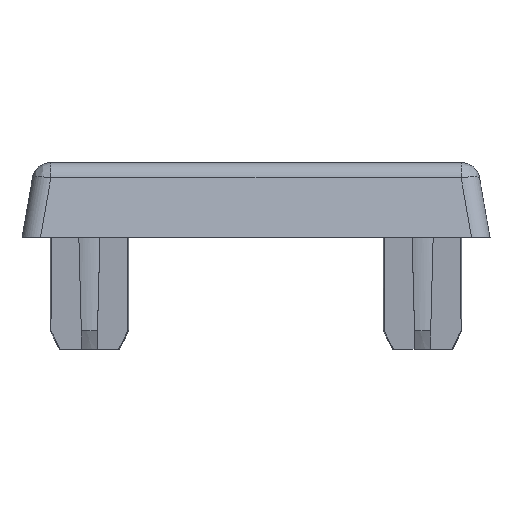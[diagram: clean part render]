
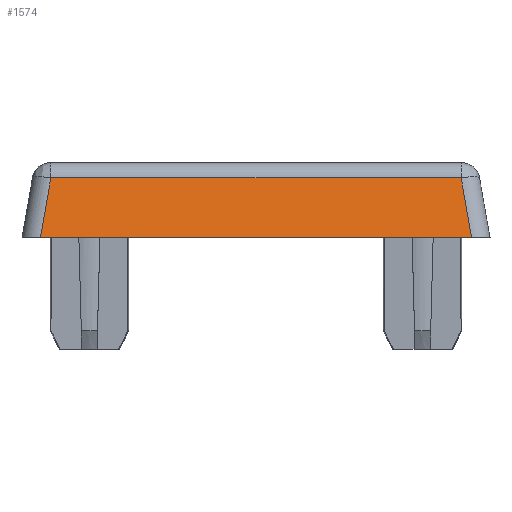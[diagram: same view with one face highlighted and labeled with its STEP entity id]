
A CAD part, front view. The second image highlights one B-rep face of the part: STEP entity #1574.
In plain terms, the highlighted planar face has unit normal (0, -0.985, 0.174).
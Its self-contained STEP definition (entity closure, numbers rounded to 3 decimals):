
#270 = CARTESIAN_POINT ( 'NONE',  ( -18.129, 7.411, 0. ) ) ;
#691 = VERTEX_POINT ( 'NONE', #4328 ) ;
#749 = CARTESIAN_POINT ( 'NONE',  ( -40.602, 7.969, 3.162 ) ) ;
#790 = ORIENTED_EDGE ( 'NONE', *, *, #1826, .F. ) ;
#885 = DIRECTION ( 'NONE',  ( 0.171, -0.171, -0.97 ) ) ;
#959 = DIRECTION ( 'NONE',  ( -1., 0., 0. ) ) ;
#1047 = DIRECTION ( 'NONE',  ( 0.171, 0.171, 0.97 ) ) ;
#1148 = CARTESIAN_POINT ( 'NONE',  ( -16.132, 7.411, 0. ) ) ;
#1388 = ORIENTED_EDGE ( 'NONE', *, *, #4043, .F. ) ;
#1514 = EDGE_CURVE ( 'NONE', #4131, #691, #2010, .T. ) ;
#1574 = ADVANCED_FACE ( 'NONE', ( #2100 ), #5488, .F. ) ;
#1806 = VECTOR ( 'NONE', #885, 1000. ) ;
#1826 = EDGE_CURVE ( 'NONE', #6251, #4816, #3364, .T. ) ;
#1889 = VECTOR ( 'NONE', #959, 1000. ) ;
#1902 = ORIENTED_EDGE ( 'NONE', *, *, #1514, .F. ) ;
#2010 = LINE ( 'NONE', #3937, #3788 ) ;
#2100 = FACE_OUTER_BOUND ( 'NONE', #2818, .T. ) ;
#2818 = EDGE_LOOP ( 'NONE', ( #1902, #1388, #790, #6074 ) ) ;
#3083 = DIRECTION ( 'NONE',  ( 0., 0.985, -0.174 ) ) ;
#3289 = LINE ( 'NONE', #5228, #1806 ) ;
#3364 = LINE ( 'NONE', #5302, #1889 ) ;
#3444 = LINE ( 'NONE', #5386, #5650 ) ;
#3788 = VECTOR ( 'NONE', #5871, 1000. ) ;
#3891 = AXIS2_PLACEMENT_3D ( 'NONE', #1148, #3083, #5023 ) ;
#3917 = EDGE_CURVE ( 'NONE', #691, #6251, #3289, .T. ) ;
#3937 = CARTESIAN_POINT ( 'NONE',  ( -29.644, 7.969, 3.162 ) ) ;
#4043 = EDGE_CURVE ( 'NONE', #4816, #4131, #3444, .T. ) ;
#4131 = VERTEX_POINT ( 'NONE', #749 ) ;
#4328 = CARTESIAN_POINT ( 'NONE',  ( -18.687, 7.969, 3.162 ) ) ;
#4816 = VERTEX_POINT ( 'NONE', #5008 ) ;
#5008 = CARTESIAN_POINT ( 'NONE',  ( -41.159, 7.411, 0. ) ) ;
#5023 = DIRECTION ( 'NONE',  ( 0., 0.174, 0.985 ) ) ;
#5228 = CARTESIAN_POINT ( 'NONE',  ( -18.687, 7.969, 3.162 ) ) ;
#5302 = CARTESIAN_POINT ( 'NONE',  ( -16.132, 7.411, 0. ) ) ;
#5386 = CARTESIAN_POINT ( 'NONE',  ( -41.159, 7.411, 0. ) ) ;
#5488 = PLANE ( 'NONE',  #3891 ) ;
#5650 = VECTOR ( 'NONE', #1047, 1000. ) ;
#5871 = DIRECTION ( 'NONE',  ( 1., 0., 0. ) ) ;
#6074 = ORIENTED_EDGE ( 'NONE', *, *, #3917, .F. ) ;
#6251 = VERTEX_POINT ( 'NONE', #270 ) ;
